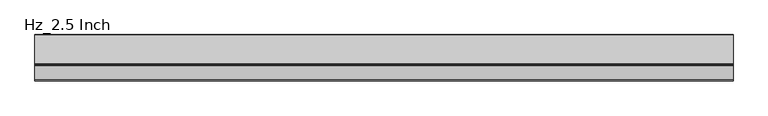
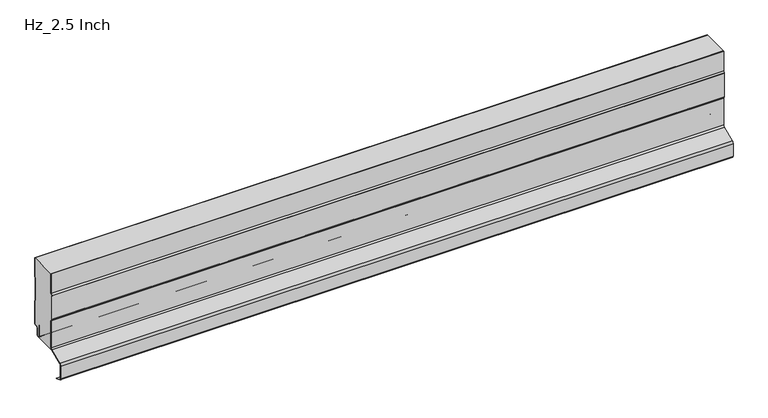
"""IFC4 building model written with IfcOpenShell, lengths in millimetres: plate geometry, AWIP_R18_CP_HR5_Hz_Roof Panel : Hz_2.5 Inch."""

from ifc_helpers import new_model, si_unit, point, frame, frame_2d, origin, place, context, project, spatial, polyline, circle_curve, trimmed, segment, composite_curve, outline, extrude, source, transform, mapped, element, save


def hz_2_5_inch_c16ab494(model_context):
    return source(origin(), model_context, "Body", "SweptSolid", [
        extrude(outline(composite_curve([segment(polyline([(-59.9158805, 158.7499765), (-59.9158805, 203.2), (-0.8, 203.2), (-0.8, 161.5257309)]), True, "CONTINUOUS"), segment(trimmed(circle_curve(frame_2d((-3.2, 161.5257309)), 2.4), [point((-0.8, 161.5257309))], [point((-0.9968123, 160.5739095))], False, "CARTESIAN"), True, "CONTINUOUS"), segment(polyline([(-0.9968123, 160.5739095), (-2.0293831, 158.1838103)]), True, "CONTINUOUS"), segment(trimmed(circle_curve(frame_2d((1.0, 156.875056)), 3.3), [point((-2.0293831, 158.1838103))], [point((-2.3, 156.875056))], True, "CARTESIAN"), True, "CONTINUOUS"), segment(polyline([(-2.3, 156.875056), (-2.3, 108.4910509)]), True, "CONTINUOUS"), segment(trimmed(circle_curve(frame_2d((1.0, 108.4910509)), 3.3), [point((-2.3, 108.4910509))], [point((-2.0293831, 107.1822965))], True, "CARTESIAN"), True, "CONTINUOUS"), segment(polyline([(-2.0293831, 107.1822965), (-0.9968123, 104.7921973)]), True, "CONTINUOUS"), segment(trimmed(circle_curve(frame_2d((-3.2, 103.840376)), 2.4), [point((-0.9968123, 104.7921973))], [point((-0.8, 103.840376))], False, "CARTESIAN"), True, "CONTINUOUS"), segment(polyline([(-0.8, 103.840376), (-0.8, 54.0830534)]), True, "CONTINUOUS"), segment(trimmed(circle_curve(frame_2d((-3.0, 54.0830534)), 2.2), [point((-0.8, 54.0830534))], [point((-3.0, 51.8830534))], False, "CARTESIAN"), True, "CONTINUOUS"), segment(polyline([(-3.0, 51.8830534), (-5.0, 51.8830534)]), True, "CONTINUOUS"), segment(trimmed(circle_curve(frame_2d((-5.0, 47.0830534)), 4.8), [point((-5.0, 51.8830534))], [point((-9.8, 47.0830534))], True, "CARTESIAN"), True, "CONTINUOUS"), segment(polyline([(-9.8, 47.0830534), (-9.8, 33.5672433)]), True, "CONTINUOUS"), segment(trimmed(circle_curve(frame_2d((-12.0, 33.5672433)), 2.2), [point((-9.8, 33.5672433))], [point((-12.0, 31.3672433))], False, "CARTESIAN"), True, "CONTINUOUS"), segment(polyline([(-12.0, 31.3672433), (-14.0, 31.3672433)]), True, "CONTINUOUS"), segment(trimmed(circle_curve(frame_2d((-14.0, 33.5672433)), 2.2), [point((-14.0, 31.3672433))], [point((-16.2, 33.5672433))], False, "CARTESIAN"), True, "CONTINUOUS"), segment(polyline([(-16.2, 33.5672433), (-16.2, 59.5082852), (-17.0, 59.5082852), (-17.0, 33.5672433)]), True, "CONTINUOUS"), segment(trimmed(circle_curve(frame_2d((-14.0, 33.5672433)), 3.0), [point((-17.0, 33.5672433))], [point((-14.0, 30.5672433))], True, "CARTESIAN"), True, "CONTINUOUS"), segment(polyline([(-14.0, 30.5672433), (-63.520955, 30.5672433)]), True, "CONTINUOUS"), segment(trimmed(circle_curve(frame_2d((-64.7158805, 35.2161306)), 4.8), [point((-63.520955, 30.5672433))], [point((-59.9158805, 35.2161306))], True, "CARTESIAN"), True, "CONTINUOUS"), segment(polyline([(-59.9158805, 35.2161306), (-59.9158805, 96.0000475)]), True, "CONTINUOUS"), segment(trimmed(circle_curve(frame_2d((-61.2158805, 96.0000475)), 1.3), [point((-59.9158805, 96.0000475))], [point((-60.1621796, 96.7614373))], True, "CARTESIAN"), True, "CONTINUOUS"), segment(polyline([(-60.1621796, 96.7614373), (-62.7, 100.2735719), (-62.7, 154.4764522), (-60.1621797, 157.9885867)]), True, "CONTINUOUS"), segment(trimmed(circle_curve(frame_2d((-61.2158805, 158.7499765)), 1.3), [point((-60.1621797, 157.9885867))], [point((-59.9158805, 158.7499765))], True, "CARTESIAN"), True, "CONTINUOUS")], self_intersect=False)), frame((-723.9042608, 0.0, 0.0), z_axis=(1.0, 0.0, 0.0), x_axis=(0.0, 1.0, 0.0)), (0.0, 0.0, 1.0), 1447.8085217),
        extrude(outline(composite_curve([segment(polyline([(-0.8, 161.5426774), (-0.8, 203.2), (0.0, 203.2), (0.0, 161.5426774)]), True, "CONTINUOUS"), segment(trimmed(circle_curve(frame_2d((-3.2, 161.5426774)), 3.2), [point((0.0, 161.5426774))], [point((-0.2624164, 160.2735823))], False, "CARTESIAN"), True, "CONTINUOUS"), segment(polyline([(-0.2624164, 160.2735823), (-1.2949872, 157.8834831)]), True, "CONTINUOUS"), segment(trimmed(circle_curve(frame_2d((1.0, 156.8920026)), 2.5), [point((-1.2949872, 157.8834831))], [point((-1.5, 156.8920026))], True, "CARTESIAN"), True, "CONTINUOUS"), segment(polyline([(-1.5, 156.8920026), (-1.5, 108.5079974)]), True, "CONTINUOUS"), segment(trimmed(circle_curve(frame_2d((1.0, 108.5079974)), 2.5), [point((-1.5, 108.5079974))], [point((-1.2949872, 107.5165169))], True, "CARTESIAN"), True, "CONTINUOUS"), segment(polyline([(-1.2949872, 107.5165169), (-0.2624164, 105.1264177)]), True, "CONTINUOUS"), segment(trimmed(circle_curve(frame_2d((-3.2, 103.8573226)), 3.2), [point((-0.2624164, 105.1264177))], [point((0.0, 103.8573226))], False, "CARTESIAN"), True, "CONTINUOUS"), segment(polyline([(0.0, 103.8573226), (0.0, 54.1)]), True, "CONTINUOUS"), segment(trimmed(circle_curve(frame_2d((-3.0, 54.1)), 3.0), [point((0.0, 54.1))], [point((-3.0, 51.1))], False, "CARTESIAN"), True, "CONTINUOUS"), segment(polyline([(-3.0, 51.1), (-5.0, 51.1)]), True, "CONTINUOUS"), segment(trimmed(circle_curve(frame_2d((-5.0, 47.1)), 4.0), [point((-5.0, 51.1))], [point((-9.0, 47.1))], True, "CARTESIAN"), True, "CONTINUOUS"), segment(polyline([(-9.0, 47.1), (-9.0, 33.5841899)]), True, "CONTINUOUS"), segment(trimmed(circle_curve(frame_2d((-12.0, 33.5841899)), 3.0), [point((-9.0, 33.5841899))], [point((-12.0, 30.5841899))], False, "CARTESIAN"), True, "CONTINUOUS"), segment(polyline([(-12.0, 30.5841899), (-14.0, 30.5841899)]), True, "CONTINUOUS"), segment(trimmed(circle_curve(frame_2d((-14.0, 33.5841899)), 3.0), [point((-14.0, 30.5841899))], [point((-17.0, 33.5841899))], False, "CARTESIAN"), True, "CONTINUOUS"), segment(polyline([(-17.0, 33.5841899), (-17.0, 59.5252318), (-16.2, 59.5252318), (-16.2, 33.5841899)]), True, "CONTINUOUS"), segment(trimmed(circle_curve(frame_2d((-14.0, 33.5841899)), 2.2), [point((-16.2, 33.5841899))], [point((-14.0, 31.3841899))], True, "CARTESIAN"), True, "CONTINUOUS"), segment(polyline([(-14.0, 31.3841899), (-12.0, 31.3841899)]), True, "CONTINUOUS"), segment(trimmed(circle_curve(frame_2d((-12.0, 33.5841899)), 2.2), [point((-12.0, 31.3841899))], [point((-9.8, 33.5841899))], True, "CARTESIAN"), True, "CONTINUOUS"), segment(polyline([(-9.8, 33.5841899), (-9.8, 47.1)]), True, "CONTINUOUS"), segment(trimmed(circle_curve(frame_2d((-5.0, 47.1)), 4.8), [point((-9.8, 47.1))], [point((-5.0, 51.9))], False, "CARTESIAN"), True, "CONTINUOUS"), segment(polyline([(-5.0, 51.9), (-3.0, 51.9)]), True, "CONTINUOUS"), segment(trimmed(circle_curve(frame_2d((-3.0, 54.1)), 2.2), [point((-3.0, 51.9))], [point((-0.8, 54.1))], True, "CARTESIAN"), True, "CONTINUOUS"), segment(polyline([(-0.8, 54.1), (-0.8, 103.8573226)]), True, "CONTINUOUS"), segment(trimmed(circle_curve(frame_2d((-3.2, 103.8573226)), 2.4), [point((-0.8, 103.8573226))], [point((-0.9968123, 104.8091439))], True, "CARTESIAN"), True, "CONTINUOUS"), segment(polyline([(-0.9968123, 104.8091439), (-2.0293831, 107.1992431)]), True, "CONTINUOUS"), segment(trimmed(circle_curve(frame_2d((1.0, 108.5079974)), 3.3), [point((-2.0293831, 107.1992431))], [point((-2.3, 108.5079974))], False, "CARTESIAN"), True, "CONTINUOUS"), segment(polyline([(-2.3, 108.5079974), (-2.3, 156.8920026)]), True, "CONTINUOUS"), segment(trimmed(circle_curve(frame_2d((1.0, 156.8920026)), 3.3), [point((-2.3, 156.8920026))], [point((-2.0293831, 158.2007569))], False, "CARTESIAN"), True, "CONTINUOUS"), segment(polyline([(-2.0293831, 158.2007569), (-0.9968123, 160.5908561)]), True, "CONTINUOUS"), segment(trimmed(circle_curve(frame_2d((-3.2, 161.5426774)), 2.4), [point((-0.9968123, 160.5908561))], [point((-0.8, 161.5426774))], True, "CARTESIAN"), True, "CONTINUOUS")], self_intersect=False)), frame((-723.9042608, 0.0, 0.0), z_axis=(1.0, 0.0, 0.0), x_axis=(0.0, 1.0, 0.0)), (0.0, 0.0, 1.0), 1447.8085217),
        extrude(outline(composite_curve([segment(polyline([(-60.7158805, 158.5882334), (-60.7158805, 203.2), (-59.9158805, 203.2), (-59.9158805, 158.7499765)]), True, "CONTINUOUS"), segment(trimmed(circle_curve(frame_2d((-61.2158805, 158.7499765)), 1.3), [point((-59.9158805, 158.7499765))], [point((-60.1621796, 157.9885867))], False, "CARTESIAN"), True, "CONTINUOUS"), segment(polyline([(-60.1621796, 157.9885867), (-62.6999999, 154.4764522), (-62.6999999, 100.2735719), (-60.1621795, 96.7614373)]), True, "CONTINUOUS"), segment(trimmed(circle_curve(frame_2d((-61.2158804, 96.0000475)), 1.3), [point((-60.1621795, 96.7614373))], [point((-59.9158804, 96.0000475))], False, "CARTESIAN"), True, "CONTINUOUS"), segment(polyline([(-59.9158804, 96.0000475), (-59.9158804, 35.2161306)]), True, "CONTINUOUS"), segment(trimmed(circle_curve(frame_2d((-64.7158804, 35.2161306)), 4.8), [point((-59.9158804, 35.2161306))], [point((-62.8404013, 30.7976944))], False, "CARTESIAN"), True, "CONTINUOUS"), segment(polyline([(-62.8404013, 30.7976944), (-92.8569246, 18.0566792)]), True, "CONTINUOUS"), segment(trimmed(circle_curve(frame_2d((-91.2158804, 14.1905475)), 4.2), [point((-92.8569246, 18.0566792))], [point((-95.4158804, 14.1905475))], True, "CARTESIAN"), True, "CONTINUOUS"), segment(polyline([(-95.4158804, 14.1905475), (-95.4158804, -14.1905446)]), True, "CONTINUOUS"), segment(trimmed(circle_curve(frame_2d((-91.2158804, -14.1905446)), 4.2), [point((-95.4158804, -14.1905446))], [point((-92.8569214, -18.0566776))], True, "CARTESIAN"), True, "CONTINUOUS"), segment(polyline([(-92.8569214, -18.0566776), (-80.2561658, -23.4052667), (-80.5672483, -24.1423084), (-93.1695007, -18.7930838)]), True, "CONTINUOUS"), segment(trimmed(circle_curve(frame_2d((-91.2158804, -14.1905446)), 5.0), [point((-93.1695007, -18.7930838))], [point((-96.2158804, -14.1905446))], False, "CARTESIAN"), True, "CONTINUOUS"), segment(polyline([(-96.2158804, -14.1905446), (-96.2158804, 14.1905475)]), True, "CONTINUOUS"), segment(trimmed(circle_curve(frame_2d((-91.2158804, 14.1905475)), 5.0), [point((-96.2158804, 14.1905475))], [point((-93.1695045, 18.7930852))], False, "CARTESIAN"), True, "CONTINUOUS"), segment(polyline([(-93.1695045, 18.7930852), (-63.1529811, 31.5341005)]), True, "CONTINUOUS"), segment(trimmed(circle_curve(frame_2d((-64.7158804, 35.2161306)), 4.0), [point((-63.1529811, 31.5341005))], [point((-60.7158804, 35.2161306))], True, "CARTESIAN"), True, "CONTINUOUS"), segment(polyline([(-60.7158804, 35.2161306), (-60.7158804, 96.1617908), (-63.2158083, 99.6214851)]), True, "CONTINUOUS"), segment(trimmed(circle_curve(frame_2d((-61.9999996, 100.5000119)), 1.5), [point((-63.2158083, 99.6214851))], [point((-63.4999996, 100.5000119))], False, "CARTESIAN"), True, "CONTINUOUS"), segment(polyline([(-63.4999996, 100.5000119), (-63.4999996, 154.2490404)]), True, "CONTINUOUS"), segment(trimmed(circle_curve(frame_2d((-61.9999999, 154.2500118)), 1.5), [point((-63.4999996, 154.2490404))], [point((-63.2158086, 155.1285386))], False, "CARTESIAN"), True, "CONTINUOUS"), segment(polyline([(-63.2158086, 155.1285386), (-60.7158805, 158.5882334)]), True, "CONTINUOUS")], self_intersect=False)), frame((-723.9042608, 0.0, 0.0), z_axis=(1.0, 0.0, 0.0), x_axis=(0.0, 1.0, 0.0)), (0.0, 0.0, 1.0), 1447.8085217),
    ])


if __name__ == "__main__":
    model = new_model("IFC4")
    model_context = context("Model", 3, world=origin())
    ifc_project = project(units=[si_unit("LENGTHUNIT", "METRE", prefix="MILLI")], contexts=[model_context])
    site = spatial("IfcSite", under=ifc_project)
    building = spatial("IfcBuilding", under=site)
    placement = place(None, origin())
    hz_2_5_inch_shape = hz_2_5_inch_c16ab494(model_context)
    element("IfcPlate", 1, ObjectType="AWIP_R18_CP_HR5_Hz_Roof Panel : Hz_2.5 Inch", at=placement, inside=building, context=model_context, shape_type="MappedRepresentation", body=[
        mapped(hz_2_5_inch_shape, transform((0.0, 0.0, 0.0), x_axis=(1.0, 0.0, 0.0), y_axis=(0.0, 1.0, 0.0), z_axis=(0.0, 0.0, 1.0))),
    ])
    save(model, "model.ifc")
